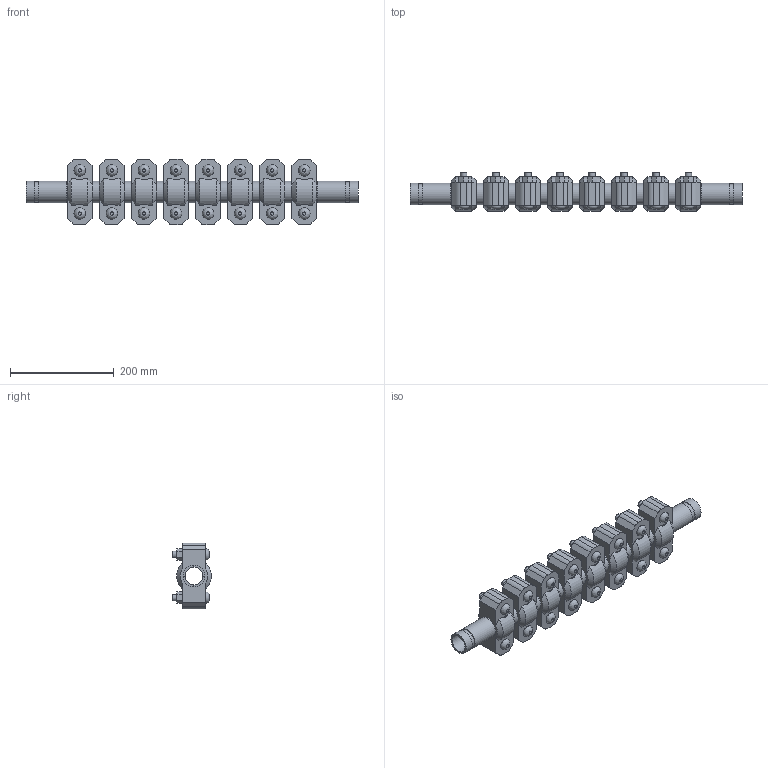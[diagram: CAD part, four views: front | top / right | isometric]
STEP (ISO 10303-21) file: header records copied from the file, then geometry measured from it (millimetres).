
FILE_DESCRIPTION(/* description */ ('VIC EXPANSION JOINT 8 COUPLINGS EXPANDED STYLE 155 (OGS)','CAx-IF Rec.Pracs.---Representation and Presentation of Product Manufacturing Information (PMI)---4.0---2014-10-13'),/* implementation_level */ '2;1');
FILE_NAME(/* name */ 'C:\Users\kkamble\AppData\Roaming\Autodesk\ApplicationPlugins\Victaulic.Temp\A413\Victaulic_IPS_Expansion Joint_Expanded_8 Couplings_Style 155 (OGS)_1.25 (32).stp',/* time_stamp */ '2021-06-27T00:08:38+02:00',/* author */ ('kkamble'),/* organization */ ('Victaulic'),/* preprocessor_version */ 'ST-DEVELOPER v17.2',/* originating_system */ 'Autodesk Inventor 2019',/* authorisation */ '');
FILE_SCHEMA (('AP242_MANAGED_MODEL_BASED_3D_ENGINEERING_MIM_LF { 1 0 10303 442 1 1 4 }'));
Length unit declared in the file: inch
Products named in the file (4): 155-01.25; Nipple-01.25; Nipple-01.25_1; 077-01.25
Assembly tree (17 placements, depth 2):
  155-01.25
    Nipple-01.25  x2
    Nipple-01.25_1  x7
    077-01.25  x8
Bounding box: 641.35 x 74.93 x 127 mm (x, y, z)
Volume: 2091079.6 mm3; surface area: 502166.5 mm2
Topology: 17 solids, 33 shells, 596 faces, 1430 edges, 1000 vertices
Faces by surface type: plane 342, cylinder 206, cone 32, bspline 16
Full cylindrical faces by diameter (mm): 12.7 x32, 14.605 x16, 33.274 x8, 35.052 x9, 38.989 x18, 42.164 x43
Entity records: 3017 total; most frequent: CARTESIAN_POINT 561, DIRECTION 497, ORIENTED_EDGE 410, EDGE_CURVE 205, AXIS2_PLACEMENT_3D 200, VERTEX_POINT 146, EDGE_LOOP 111, LINE 97
